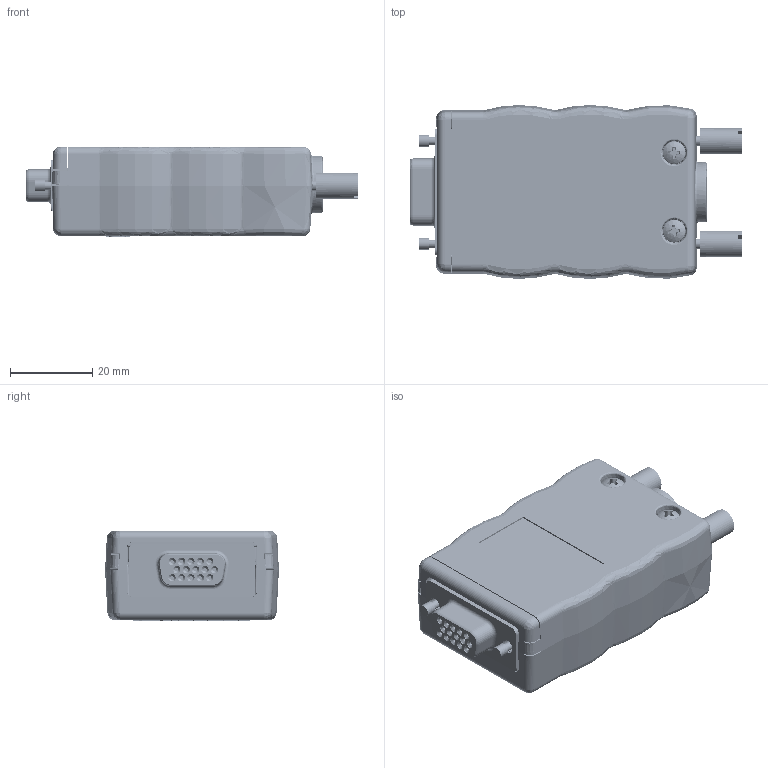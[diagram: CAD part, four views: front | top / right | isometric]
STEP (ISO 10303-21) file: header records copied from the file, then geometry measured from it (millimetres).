
FILE_DESCRIPTION (( 'STEP AP214' ), '1' );
FILE_NAME ('brkegd15hdf-t_rev_a.step', '2018-11-12T02:21:21', ( '' ), ( '' ), 'SwSTEP 2.0', 'SolidWorks 2017', '' );
FILE_SCHEMA (( 'AUTOMOTIVE_DESIGN' ));
Length unit declared in the file: inch
Products named in the file (11): Female Right Angle 15 Pin HD Thumbscrew; Enclosure #4-40 Insert_92395A112; Enclosure_Screw Ph 2-28 x .25_90380A005; Enclosure ECB9; Spring Term 8 Position; Enclosure_Cable Tie_Tail-Cut; BRKEGD15HDF Board; T Label; thumbscrew 3.09 inch; brkegd15hdf-t_rev_a; Enclosure_Screw Ph 4-40 x .625_90272A112
Assembly tree (15 placements, depth 2):
  brkegd15hdf-t_rev_a
    BRKEGD15HDF Board
    Enclosure_Cable Tie_Tail-Cut
    Enclosure_Screw Ph 2-28 x .25_90380A005  x2
    Enclosure_Screw Ph 4-40 x .625_90272A112  x2
    Female Right Angle 15 Pin HD Thumbscrew
    Spring Term 8 Position  x2
    T Label
    Enclosure #4-40 Insert_92395A112  x2
    Enclosure ECB9
    thumbscrew 3.09 inch  x2
Bounding box: 80.66 x 42.23 x 22 mm (x, y, z)
Volume: 26401 mm3; surface area: 36990.9 mm2
Topology: 18 solids, 70 shells, 9543 faces, 23537 edges, 14626 vertices
Faces by surface type: plane 4095, bspline 2935, cylinder 2299, cone 165, torus 45, sphere 4
Full cylindrical faces by diameter (mm): 0.005 x1, 0.86 x15, 0.864 x32, 1.016 x14, 1.025 x96, 1.1 x32, 1.15 x108, 1.78 x15, 1.981 x2, 2.413 x2, 2.438 x2, 2.845 x2, 3.175 x4, 3.302 x2, 3.404 x2, 3.962 x2, 4.242 x2, 5.207 x2, 5.563 x2, 6.35 x2
Entity records: 291649 total; most frequent: CARTESIAN_POINT 138054, ORIENTED_EDGE 30415, DIRECTION 21723, EDGE_CURVE 15211, VERTEX_POINT 9660, LINE 8259, VECTOR 8259, EDGE_LOOP 7090
